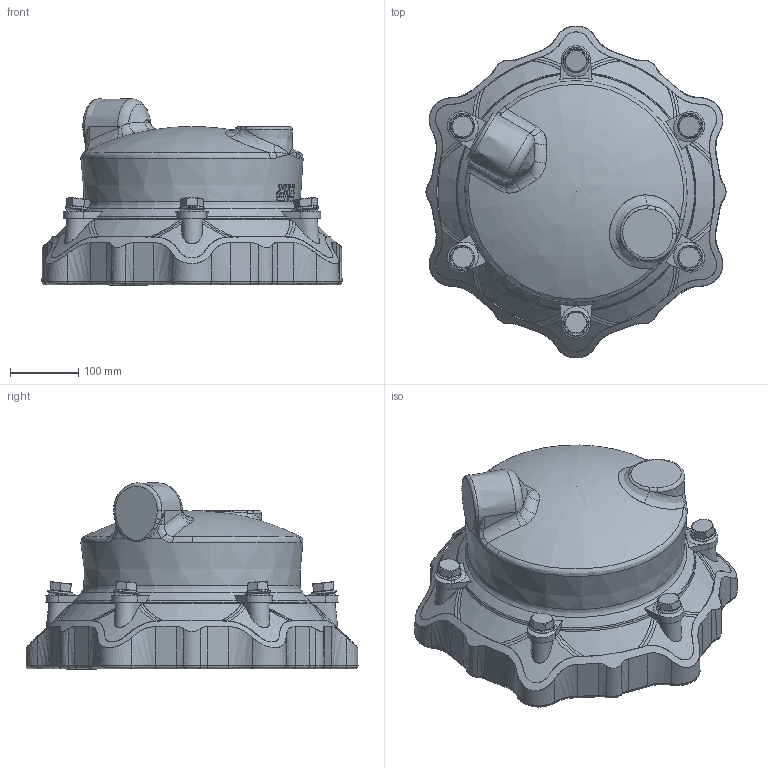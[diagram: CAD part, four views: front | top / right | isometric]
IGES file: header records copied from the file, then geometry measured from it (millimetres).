
Start section: SolidWorks IGES file using analytic representation for surfaces
Global section: file name: \\avksan2\techshare\PBM outline export from Enovia\O_634_00_DN250_266-301mm_AA0_igs.igs; native system: SolidWorks 2012; preprocessor: SolidWorks 2012; author: pbm; date: 160510.124513; units: millimetre
Bounding box: 438.73 x 485.42 x 272.51 mm (x, y, z)
Surface area: 726083.9 mm2 (no closed solid volume)
Topology: 0 solids, 0 shells, 632 faces, 4030 edges, 4004 vertices
Faces by surface type: bspline 445, revolution 187
